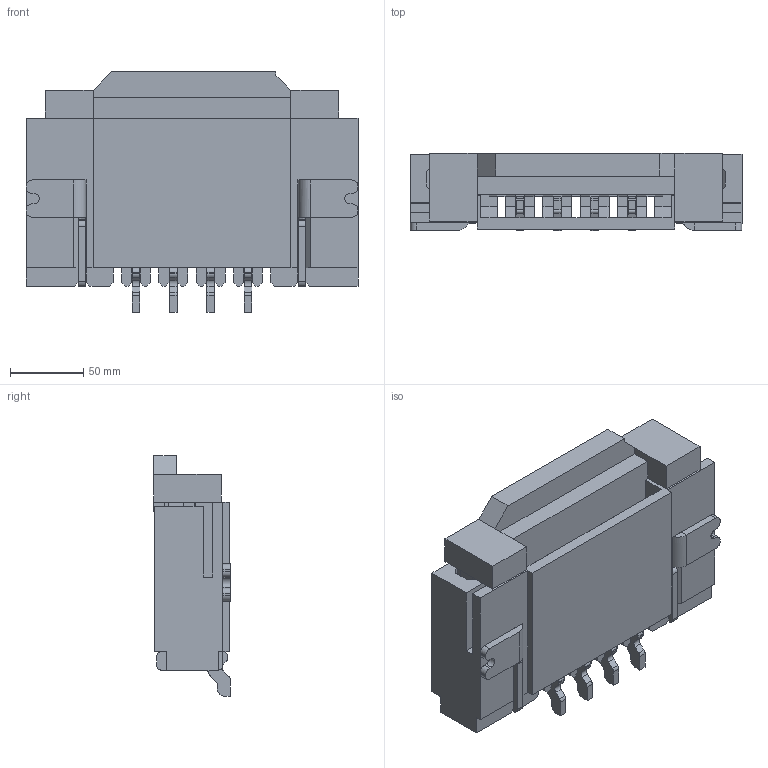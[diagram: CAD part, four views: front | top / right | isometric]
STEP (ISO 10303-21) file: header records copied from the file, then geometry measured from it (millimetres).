
FILE_DESCRIPTION (( 'STEP AP203' ), '1' );
FILE_NAME ('GT-F1010SR20-XXSXX01 .STEP', '2023-12-27T08:30:19', ( 'Microsoft' ), ( 'Microsoft' ), 'SwSTEP 2.0', 'SolidWorks 2023', '' );
FILE_SCHEMA (( 'CONFIG_CONTROL_DESIGN' ));
Length unit declared in the file: millimetre
Products named in the file (5): GT-F1010SR20-XXSXX01 ; MANIFOLD_SOLID_BREP_25681.stp; GT-F1010SR20-XXSXX01 .stp; MANIFOLD_SOLID_BREP_4163.stp; 1021-4_ASM_ASM.stp
Assembly tree (4 placements, depth 4):
  GT-F1010SR20-XXSXX01 
    GT-F1010SR20-XXSXX01 .stp
      1021-4_ASM_ASM.stp
        MANIFOLD_SOLID_BREP_4163.stp
        MANIFOLD_SOLID_BREP_25681.stp
Bounding box: 226.06 x 52.2 x 163.96 mm (x, y, z)
Volume: 1013009.9 mm3; surface area: 236724.6 mm2
Topology: 2 solids, 2 shells, 994 faces, 3065 edges, 1999 vertices
Faces by surface type: plane 748, cylinder 170, bspline 76
Entity records: 38370 total; most frequent: CARTESIAN_POINT 10759, ORIENTED_EDGE 6130, DIRECTION 5046, EDGE_CURVE 3065, VECTOR 2512, LINE 2512, VERTEX_POINT 1999, AXIS2_PLACEMENT_3D 1267
